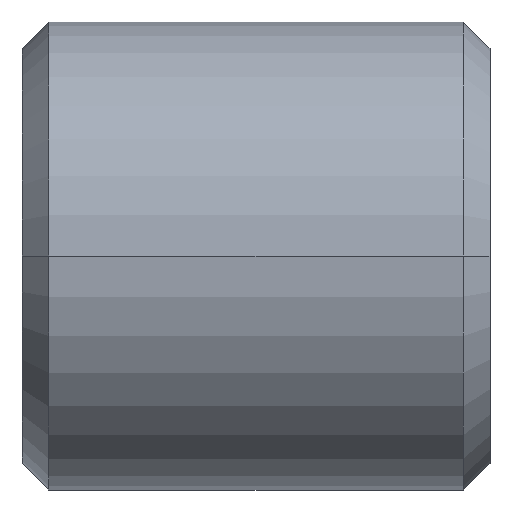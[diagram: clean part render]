
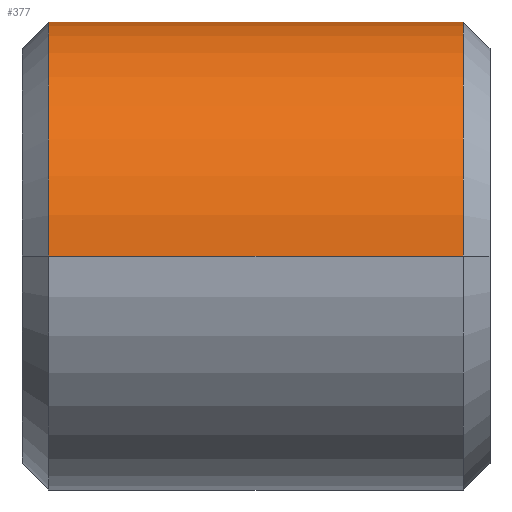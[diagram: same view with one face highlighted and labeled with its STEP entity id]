
A CAD part, front view. The second image highlights one B-rep face of the part: STEP entity #377.
In plain terms, the highlighted cylindrical face has radius 4.445 mm (diameter 8.89 mm), a partial arc.
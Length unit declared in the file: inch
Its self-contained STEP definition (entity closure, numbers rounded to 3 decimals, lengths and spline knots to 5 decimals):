
#14 = CARTESIAN_POINT ( 'NONE',  ( -0.155, 0., 0. ) ) ;
#16 = EDGE_CURVE ( 'NONE', #61, #550, #540, .T. ) ;
#40 = CARTESIAN_POINT ( 'NONE',  ( -0.155, 0.175, 0. ) ) ;
#42 = AXIS2_PLACEMENT_3D ( 'NONE', #40, #357, #686 ) ;
#56 = DIRECTION ( 'NONE',  ( -1., 0., 0. ) ) ;
#61 = VERTEX_POINT ( 'NONE', #646 ) ;
#73 = CIRCLE ( 'NONE', #538, 0.175 ) ;
#80 = DIRECTION ( 'NONE',  ( 0., 0., 1. ) ) ;
#115 = VERTEX_POINT ( 'NONE', #14 ) ;
#120 = EDGE_LOOP ( 'NONE', ( #154, #481, #504, #210 ) ) ;
#133 = VERTEX_POINT ( 'NONE', #460 ) ;
#150 = AXIS2_PLACEMENT_3D ( 'NONE', #595, #56, #271 ) ;
#154 = ORIENTED_EDGE ( 'NONE', *, *, #16, .F. ) ;
#201 = LINE ( 'NONE', #428, #233 ) ;
#210 = ORIENTED_EDGE ( 'NONE', *, *, #519, .T. ) ;
#233 = VECTOR ( 'NONE', #322, 39.37008 ) ;
#271 = DIRECTION ( 'NONE',  ( 0., 0., 1. ) ) ;
#277 = CARTESIAN_POINT ( 'NONE',  ( 0.175, 0.175, 0.175 ) ) ;
#314 = CARTESIAN_POINT ( 'NONE',  ( 0.155, 0.175, 0.175 ) ) ;
#315 = EDGE_CURVE ( 'NONE', #61, #115, #350, .T. ) ;
#322 = DIRECTION ( 'NONE',  ( -1., 0., 0. ) ) ;
#350 = CIRCLE ( 'NONE', #42, 0.175 ) ;
#357 = DIRECTION ( 'NONE',  ( 1., 0., 0. ) ) ;
#377 = ADVANCED_FACE ( 'NONE', ( #487 ), #490, .T. ) ;
#382 = DIRECTION ( 'NONE',  ( 1., 0., 0. ) ) ;
#428 = CARTESIAN_POINT ( 'NONE',  ( -0.175, 0., 0. ) ) ;
#429 = EDGE_CURVE ( 'NONE', #133, #115, #201, .T. ) ;
#460 = CARTESIAN_POINT ( 'NONE',  ( 0.155, 0., 0. ) ) ;
#481 = ORIENTED_EDGE ( 'NONE', *, *, #315, .T. ) ;
#487 = FACE_OUTER_BOUND ( 'NONE', #120, .T. ) ;
#490 = CYLINDRICAL_SURFACE ( 'NONE', #150, 0.175 ) ;
#504 = ORIENTED_EDGE ( 'NONE', *, *, #429, .F. ) ;
#519 = EDGE_CURVE ( 'NONE', #133, #550, #73, .T. ) ;
#538 = AXIS2_PLACEMENT_3D ( 'NONE', #688, #577, #80 ) ;
#540 = LINE ( 'NONE', #277, #607 ) ;
#550 = VERTEX_POINT ( 'NONE', #314 ) ;
#577 = DIRECTION ( 'NONE',  ( -1., 0., 0. ) ) ;
#595 = CARTESIAN_POINT ( 'NONE',  ( -0.175, 0.175, 0. ) ) ;
#607 = VECTOR ( 'NONE', #382, 39.37008 ) ;
#646 = CARTESIAN_POINT ( 'NONE',  ( -0.155, 0.175, 0.175 ) ) ;
#686 = DIRECTION ( 'NONE',  ( 0., 0., -1. ) ) ;
#688 = CARTESIAN_POINT ( 'NONE',  ( 0.155, 0.175, 0. ) ) ;
